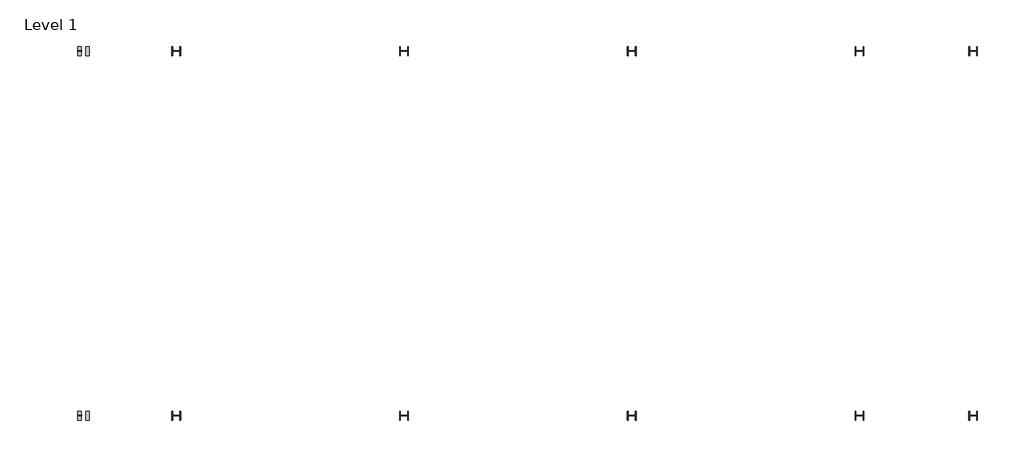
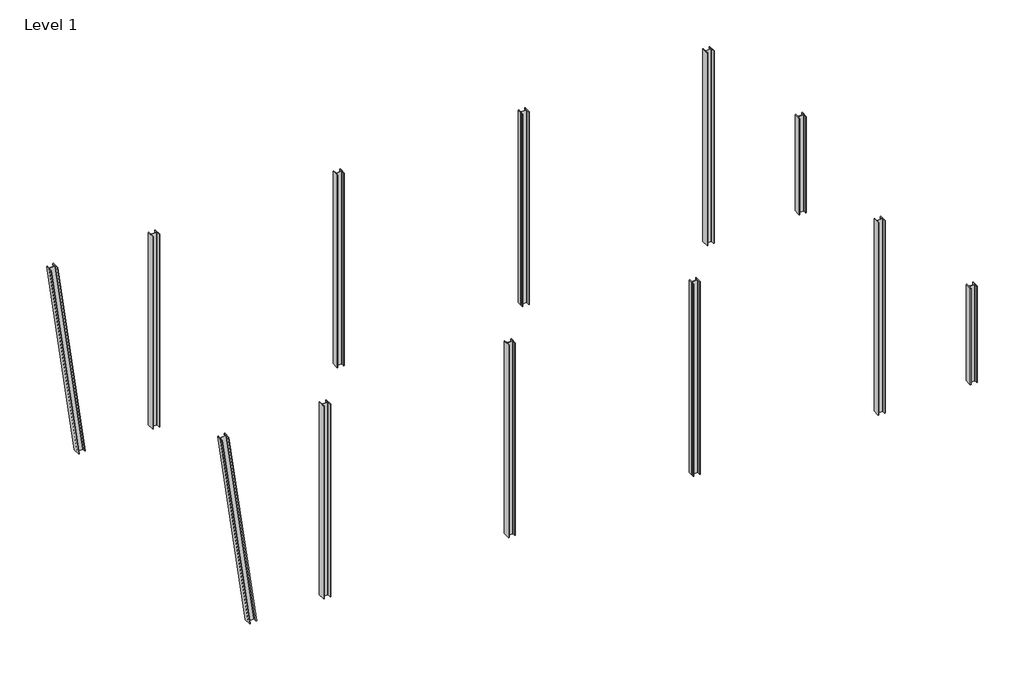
# One storey: 12 columns.
"""IFC4 building model written with IfcOpenShell, lengths in millimetres."""

from ifc_helpers import new_model, si_unit, point, frame, frame_2d, origin, origin_with_axes, place, context, project, spatial, polyline, circle_curve, trimmed, segment, composite_curve, outline, extrude, element, save

model = new_model("IFC4")

# Units and contexts
model_context = context("Model", 3, world=origin())
ifc_project = project(units=[si_unit("LENGTHUNIT", "METRE", prefix="MILLI")], contexts=[model_context])

# Site, building, storey
site = spatial("IfcSite", under=ifc_project)
building = spatial("IfcBuilding", under=site)
storey = spatial("IfcBuildingStorey", under=building, Name="Level 1", Elevation=0.0)

# Columns
placement = place(None, origin())
element("IfcColumn", 1, ObjectType="W Shapes-Column : W14X145", at=placement, inside=storey, context=model_context, shape_type="SweptSolid", body=[
    extrude(outline(composite_curve([segment(polyline([(393.7, 0.0), (393.7, -27.686), (220.726, -27.686)]), True, "CONTINUOUS"), segment(trimmed(circle_curve(frame_2d((220.726, -42.926)), 15.24), [point((220.726, -27.686))], [point((205.486, -42.926))], True, "CARTESIAN"), True, "CONTINUOUS"), segment(polyline([(205.486, -42.926), (205.486, -332.994)]), True, "CONTINUOUS"), segment(trimmed(circle_curve(frame_2d((220.726, -332.994)), 15.24), [point((205.486, -332.994))], [point((220.7259999, -348.2340001))], True, "CARTESIAN"), True, "CONTINUOUS"), segment(polyline([(220.7259999, -348.2340001), (393.6999999, -348.234), (393.6999999, -375.92), (-1e-07, -375.92), (-1e-07, -348.234), (172.9739999, -348.234)]), True, "CONTINUOUS"), segment(trimmed(circle_curve(frame_2d((172.974, -332.994)), 15.24), [point((172.9739999, -348.234))], [point((188.214, -332.9940001))], True, "CARTESIAN"), True, "CONTINUOUS"), segment(polyline([(188.214, -332.9940001), (188.214, -42.926)]), True, "CONTINUOUS"), segment(trimmed(circle_curve(frame_2d((172.974, -42.926)), 15.24), [point((188.214, -42.926))], [point((172.974, -27.686))], True, "CARTESIAN"), True, "CONTINUOUS"), segment(polyline([(172.974, -27.686), (0.0, -27.686), (0.0, 0.0), (393.7, 0.0)]), True, "CONTINUOUS")], self_intersect=False)), frame((2448.7649945, 1168.1486192, -25.3956826), z_axis=(-0.13511320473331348, 0.0, 0.990830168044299), x_axis=(-7.279044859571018e-06, 0.9999999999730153, -9.925970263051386e-07)), (0.0, 0.0, 1.0), 11101.8016556),
])
element("IfcColumn", 2, ObjectType="W Shapes-Column : W14X145", at=placement, inside=storey, context=model_context, shape_type="SweptSolid", body=[
    extrude(outline(composite_curve([segment(polyline([(6447.0392769, 1561.8493096), (6474.7252769, 1561.8494113), (6474.7259123, 1388.8754113)]), True, "CONTINUOUS"), segment(trimmed(circle_curve(frame_2d((6489.9659123, 1388.8754673)), 15.24), [point((6474.7259123, 1388.8754113))], [point((6489.9659683, 1373.6354673))], True, "CARTESIAN"), True, "CONTINUOUS"), segment(polyline([(6489.9659683, 1373.6354673), (6780.0339683, 1373.6365327)]), True, "CONTINUOUS"), segment(trimmed(circle_curve(frame_2d((6780.0339123, 1388.8765327)), 15.24), [point((6780.0339683, 1373.6365327))], [point((6795.2739123, 1388.8765887))], True, "CARTESIAN"), True, "CONTINUOUS"), segment(polyline([(6795.2739123, 1388.8765887), (6795.2732769, 1561.8505887), (6822.9592769, 1561.8506904), (6822.9607231, 1168.1506904), (6795.2747231, 1168.1505887), (6795.2740877, 1341.1245887)]), True, "CONTINUOUS"), segment(trimmed(circle_curve(frame_2d((6780.0340877, 1341.1245327)), 15.24), [point((6795.2740877, 1341.1245887))], [point((6780.0340317, 1356.3645327))], True, "CARTESIAN"), True, "CONTINUOUS"), segment(polyline([(6780.0340317, 1356.3645327), (6489.9660317, 1356.3634673)]), True, "CONTINUOUS"), segment(trimmed(circle_curve(frame_2d((6489.9660877, 1341.1234673)), 15.24), [point((6489.9660317, 1356.3634673))], [point((6474.7260877, 1341.1234113))], True, "CARTESIAN"), True, "CONTINUOUS"), segment(polyline([(6474.7260877, 1341.1234113), (6474.7267231, 1168.1494113), (6447.0407231, 1168.1493096), (6447.0392769, 1561.8493096)]), True, "CONTINUOUS")], self_intersect=False)), origin_with_axes(), (0.0, 0.0, 1.0), 11000.0),
])
element("IfcColumn", 3, ObjectType="W Shapes-Column : W14X145", at=placement, inside=storey, context=model_context, shape_type="SweptSolid", body=[
    extrude(outline(composite_curve([segment(polyline([(16429.2392769, -14438.1506904), (16456.9252769, -14438.1505887), (16456.9259123, -14611.1245887)]), True, "CONTINUOUS"), segment(trimmed(circle_curve(frame_2d((16472.1659123, -14611.1245327)), 15.24), [point((16456.9259123, -14611.1245887))], [point((16472.1659683, -14626.3645327))], True, "CARTESIAN"), True, "CONTINUOUS"), segment(polyline([(16472.1659683, -14626.3645327), (16762.2339683, -14626.3634673)]), True, "CONTINUOUS"), segment(trimmed(circle_curve(frame_2d((16762.2339123, -14611.1234673)), 15.24), [point((16762.2339683, -14626.3634673))], [point((16777.4739123, -14611.1234113))], True, "CARTESIAN"), True, "CONTINUOUS"), segment(polyline([(16777.4739123, -14611.1234113), (16777.4732769, -14438.1494113), (16805.1592769, -14438.1493096), (16805.1607231, -14831.8493096), (16777.4747231, -14831.8494113), (16777.4740877, -14658.8754113)]), True, "CONTINUOUS"), segment(trimmed(circle_curve(frame_2d((16762.2340877, -14658.8754673)), 15.24), [point((16777.4740877, -14658.8754113))], [point((16762.2340317, -14643.6354673))], True, "CARTESIAN"), True, "CONTINUOUS"), segment(polyline([(16762.2340317, -14643.6354673), (16472.1660317, -14643.6365327)]), True, "CONTINUOUS"), segment(trimmed(circle_curve(frame_2d((16472.1660877, -14658.8765327)), 15.24), [point((16472.1660317, -14643.6365327))], [point((16456.9260877, -14658.8765887))], True, "CARTESIAN"), True, "CONTINUOUS"), segment(polyline([(16456.9260877, -14658.8765887), (16456.9267231, -14831.8505887), (16429.2407231, -14831.8506904), (16429.2392769, -14438.1506904)]), True, "CONTINUOUS")], self_intersect=False)), origin_with_axes(), (0.0, 0.0, 1.0), 11000.0),
])
element("IfcColumn", 4, ObjectType="W Shapes-Column : W14X145", at=placement, inside=storey, context=model_context, shape_type="SweptSolid", body=[
    extrude(outline(composite_curve([segment(polyline([(16429.2392769, 1561.8493096), (16456.9252769, 1561.8494113), (16456.9259123, 1388.8754113)]), True, "CONTINUOUS"), segment(trimmed(circle_curve(frame_2d((16472.1659123, 1388.8754673)), 15.24), [point((16456.9259123, 1388.8754113))], [point((16472.1659683, 1373.6354673))], True, "CARTESIAN"), True, "CONTINUOUS"), segment(polyline([(16472.1659683, 1373.6354673), (16762.2339683, 1373.6365327)]), True, "CONTINUOUS"), segment(trimmed(circle_curve(frame_2d((16762.2339123, 1388.8765327)), 15.24), [point((16762.2339683, 1373.6365327))], [point((16777.4739123, 1388.8765887))], True, "CARTESIAN"), True, "CONTINUOUS"), segment(polyline([(16777.4739123, 1388.8765887), (16777.4732769, 1561.8505887), (16805.1592769, 1561.8506904), (16805.1607231, 1168.1506904), (16777.4747231, 1168.1505887), (16777.4740877, 1341.1245887)]), True, "CONTINUOUS"), segment(trimmed(circle_curve(frame_2d((16762.2340877, 1341.1245327)), 15.24), [point((16777.4740877, 1341.1245887))], [point((16762.2340317, 1356.3645327))], True, "CARTESIAN"), True, "CONTINUOUS"), segment(polyline([(16762.2340317, 1356.3645327), (16472.1660317, 1356.3634673)]), True, "CONTINUOUS"), segment(trimmed(circle_curve(frame_2d((16472.1660877, 1341.1234673)), 15.24), [point((16472.1660317, 1356.3634673))], [point((16456.9260877, 1341.1234113))], True, "CARTESIAN"), True, "CONTINUOUS"), segment(polyline([(16456.9260877, 1341.1234113), (16456.9267231, 1168.1494113), (16429.2407231, 1168.1493096), (16429.2392769, 1561.8493096)]), True, "CONTINUOUS")], self_intersect=False)), origin_with_axes(), (0.0, 0.0, 1.0), 11000.0),
])
element("IfcColumn", 5, ObjectType="W Shapes-Column : W14X145", at=placement, inside=storey, context=model_context, shape_type="SweptSolid", body=[
    extrude(outline(composite_curve([segment(polyline([(26411.4392769, -14438.1506904), (26439.1252769, -14438.1505887), (26439.1259123, -14611.1245887)]), True, "CONTINUOUS"), segment(trimmed(circle_curve(frame_2d((26454.3659123, -14611.1245327)), 15.24), [point((26439.1259123, -14611.1245887))], [point((26454.3659683, -14626.3645327))], True, "CARTESIAN"), True, "CONTINUOUS"), segment(polyline([(26454.3659683, -14626.3645327), (26744.4339683, -14626.3634673)]), True, "CONTINUOUS"), segment(trimmed(circle_curve(frame_2d((26744.4339123, -14611.1234673)), 15.24), [point((26744.4339683, -14626.3634673))], [point((26759.6739123, -14611.1234113))], True, "CARTESIAN"), True, "CONTINUOUS"), segment(polyline([(26759.6739123, -14611.1234113), (26759.6732769, -14438.1494113), (26787.3592769, -14438.1493096), (26787.3607231, -14831.8493096), (26759.6747231, -14831.8494113), (26759.6740877, -14658.8754113)]), True, "CONTINUOUS"), segment(trimmed(circle_curve(frame_2d((26744.4340877, -14658.8754673)), 15.24), [point((26759.6740877, -14658.8754113))], [point((26744.4340317, -14643.6354673))], True, "CARTESIAN"), True, "CONTINUOUS"), segment(polyline([(26744.4340317, -14643.6354673), (26454.3660317, -14643.6365327)]), True, "CONTINUOUS"), segment(trimmed(circle_curve(frame_2d((26454.3660877, -14658.8765327)), 15.24), [point((26454.3660317, -14643.6365327))], [point((26439.1260877, -14658.8765887))], True, "CARTESIAN"), True, "CONTINUOUS"), segment(polyline([(26439.1260877, -14658.8765887), (26439.1267231, -14831.8505887), (26411.4407231, -14831.8506904), (26411.4392769, -14438.1506904)]), True, "CONTINUOUS")], self_intersect=False)), origin_with_axes(), (0.0, 0.0, 1.0), 11000.0),
])
element("IfcColumn", 6, ObjectType="W Shapes-Column : W14X145", at=placement, inside=storey, context=model_context, shape_type="SweptSolid", body=[
    extrude(outline(composite_curve([segment(polyline([(26411.4392769, 1561.8493096), (26439.1252769, 1561.8494113), (26439.1259123, 1388.8754113)]), True, "CONTINUOUS"), segment(trimmed(circle_curve(frame_2d((26454.3659123, 1388.8754673)), 15.24), [point((26439.1259123, 1388.8754113))], [point((26454.3659683, 1373.6354673))], True, "CARTESIAN"), True, "CONTINUOUS"), segment(polyline([(26454.3659683, 1373.6354673), (26744.4339683, 1373.6365327)]), True, "CONTINUOUS"), segment(trimmed(circle_curve(frame_2d((26744.4339123, 1388.8765327)), 15.24), [point((26744.4339683, 1373.6365327))], [point((26759.6739123, 1388.8765887))], True, "CARTESIAN"), True, "CONTINUOUS"), segment(polyline([(26759.6739123, 1388.8765887), (26759.6732769, 1561.8505887), (26787.3592769, 1561.8506904), (26787.3607231, 1168.1506904), (26759.6747231, 1168.1505887), (26759.6740877, 1341.1245887)]), True, "CONTINUOUS"), segment(trimmed(circle_curve(frame_2d((26744.4340877, 1341.1245327)), 15.24), [point((26759.6740877, 1341.1245887))], [point((26744.4340317, 1356.3645327))], True, "CARTESIAN"), True, "CONTINUOUS"), segment(polyline([(26744.4340317, 1356.3645327), (26454.3660317, 1356.3634673)]), True, "CONTINUOUS"), segment(trimmed(circle_curve(frame_2d((26454.3660877, 1341.1234673)), 15.24), [point((26454.3660317, 1356.3634673))], [point((26439.1260877, 1341.1234113))], True, "CARTESIAN"), True, "CONTINUOUS"), segment(polyline([(26439.1260877, 1341.1234113), (26439.1267231, 1168.1494113), (26411.4407231, 1168.1493096), (26411.4392769, 1561.8493096)]), True, "CONTINUOUS")], self_intersect=False)), origin_with_axes(), (0.0, 0.0, 1.0), 11000.0),
])
element("IfcColumn", 7, ObjectType="W Shapes-Column : W14X145", at=placement, inside=storey, context=model_context, shape_type="SweptSolid", body=[
    extrude(outline(composite_curve([segment(polyline([(36393.6392769, -14438.1506904), (36421.3252769, -14438.1505887), (36421.3259123, -14611.1245887)]), True, "CONTINUOUS"), segment(trimmed(circle_curve(frame_2d((36436.5659123, -14611.1245327)), 15.24), [point((36421.3259123, -14611.1245887))], [point((36436.5659683, -14626.3645327))], True, "CARTESIAN"), True, "CONTINUOUS"), segment(polyline([(36436.5659683, -14626.3645327), (36726.6339683, -14626.3634673)]), True, "CONTINUOUS"), segment(trimmed(circle_curve(frame_2d((36726.6339123, -14611.1234673)), 15.24), [point((36726.6339683, -14626.3634673))], [point((36741.8739123, -14611.1234113))], True, "CARTESIAN"), True, "CONTINUOUS"), segment(polyline([(36741.8739123, -14611.1234113), (36741.8732769, -14438.1494113), (36769.5592769, -14438.1493096), (36769.5607231, -14831.8493096), (36741.8747231, -14831.8494113), (36741.8740877, -14658.8754113)]), True, "CONTINUOUS"), segment(trimmed(circle_curve(frame_2d((36726.6340877, -14658.8754673)), 15.24), [point((36741.8740877, -14658.8754113))], [point((36726.6340317, -14643.6354673))], True, "CARTESIAN"), True, "CONTINUOUS"), segment(polyline([(36726.6340317, -14643.6354673), (36436.5660317, -14643.6365327)]), True, "CONTINUOUS"), segment(trimmed(circle_curve(frame_2d((36436.5660877, -14658.8765327)), 15.24), [point((36436.5660317, -14643.6365327))], [point((36421.3260877, -14658.8765887))], True, "CARTESIAN"), True, "CONTINUOUS"), segment(polyline([(36421.3260877, -14658.8765887), (36421.3267231, -14831.8505887), (36393.6407231, -14831.8506904), (36393.6392769, -14438.1506904)]), True, "CONTINUOUS")], self_intersect=False)), origin_with_axes(), (0.0, 0.0, 1.0), 11000.0),
])
element("IfcColumn", 8, ObjectType="W Shapes-Column : W14X145", at=placement, inside=storey, context=model_context, shape_type="SweptSolid", body=[
    extrude(outline(composite_curve([segment(polyline([(36393.6392769, 1561.8493096), (36421.3252769, 1561.8494113), (36421.3259123, 1388.8754113)]), True, "CONTINUOUS"), segment(trimmed(circle_curve(frame_2d((36436.5659123, 1388.8754673)), 15.24), [point((36421.3259123, 1388.8754113))], [point((36436.5659683, 1373.6354673))], True, "CARTESIAN"), True, "CONTINUOUS"), segment(polyline([(36436.5659683, 1373.6354673), (36726.6339683, 1373.6365327)]), True, "CONTINUOUS"), segment(trimmed(circle_curve(frame_2d((36726.6339123, 1388.8765327)), 15.24), [point((36726.6339683, 1373.6365327))], [point((36741.8739123, 1388.8765887))], True, "CARTESIAN"), True, "CONTINUOUS"), segment(polyline([(36741.8739123, 1388.8765887), (36741.8732769, 1561.8505887), (36769.5592769, 1561.8506904), (36769.5607231, 1168.1506904), (36741.8747231, 1168.1505887), (36741.8740877, 1341.1245887)]), True, "CONTINUOUS"), segment(trimmed(circle_curve(frame_2d((36726.6340877, 1341.1245327)), 15.24), [point((36741.8740877, 1341.1245887))], [point((36726.6340317, 1356.3645327))], True, "CARTESIAN"), True, "CONTINUOUS"), segment(polyline([(36726.6340317, 1356.3645327), (36436.5660317, 1356.3634673)]), True, "CONTINUOUS"), segment(trimmed(circle_curve(frame_2d((36436.5660877, 1341.1234673)), 15.24), [point((36436.5660317, 1356.3634673))], [point((36421.3260877, 1341.1234113))], True, "CARTESIAN"), True, "CONTINUOUS"), segment(polyline([(36421.3260877, 1341.1234113), (36421.3267231, 1168.1494113), (36393.6407231, 1168.1493096), (36393.6392769, 1561.8493096)]), True, "CONTINUOUS")], self_intersect=False)), origin_with_axes(), (0.0, 0.0, 1.0), 11000.0),
])
element("IfcColumn", 9, ObjectType="W Shapes-Column : W14X145", at=placement, inside=storey, context=model_context, shape_type="SweptSolid", body=[
    extrude(outline(composite_curve([segment(polyline([(41375.8392769, -14438.1506904), (41403.5252769, -14438.1505887), (41403.5259123, -14611.1245887)]), True, "CONTINUOUS"), segment(trimmed(circle_curve(frame_2d((41418.7659123, -14611.1245327)), 15.24), [point((41403.5259123, -14611.1245887))], [point((41418.7659683, -14626.3645327))], True, "CARTESIAN"), True, "CONTINUOUS"), segment(polyline([(41418.7659683, -14626.3645327), (41708.8339683, -14626.3634673)]), True, "CONTINUOUS"), segment(trimmed(circle_curve(frame_2d((41708.8339123, -14611.1234673)), 15.24), [point((41708.8339683, -14626.3634673))], [point((41724.0739123, -14611.1234113))], True, "CARTESIAN"), True, "CONTINUOUS"), segment(polyline([(41724.0739123, -14611.1234113), (41724.0732769, -14438.1494113), (41751.7592769, -14438.1493096), (41751.7607231, -14831.8493096), (41724.0747231, -14831.8494113), (41724.0740877, -14658.8754113)]), True, "CONTINUOUS"), segment(trimmed(circle_curve(frame_2d((41708.8340877, -14658.8754673)), 15.24), [point((41724.0740877, -14658.8754113))], [point((41708.8340317, -14643.6354673))], True, "CARTESIAN"), True, "CONTINUOUS"), segment(polyline([(41708.8340317, -14643.6354673), (41418.7660317, -14643.6365327)]), True, "CONTINUOUS"), segment(trimmed(circle_curve(frame_2d((41418.7660877, -14658.8765327)), 15.24), [point((41418.7660317, -14643.6365327))], [point((41403.5260877, -14658.8765887))], True, "CARTESIAN"), True, "CONTINUOUS"), segment(polyline([(41403.5260877, -14658.8765887), (41403.5267231, -14831.8505887), (41375.8407231, -14831.8506904), (41375.8392769, -14438.1506904)]), True, "CONTINUOUS")], self_intersect=False)), origin_with_axes(), (0.0, 0.0, 1.0), 5500.0),
])
element("IfcColumn", 10, ObjectType="W Shapes-Column : W14X145", at=placement, inside=storey, context=model_context, shape_type="SweptSolid", body=[
    extrude(outline(composite_curve([segment(polyline([(41375.8392769, 1561.8493096), (41403.5252769, 1561.8494113), (41403.5259123, 1388.8754113)]), True, "CONTINUOUS"), segment(trimmed(circle_curve(frame_2d((41418.7659123, 1388.8754673)), 15.24), [point((41403.5259123, 1388.8754113))], [point((41418.7659683, 1373.6354673))], True, "CARTESIAN"), True, "CONTINUOUS"), segment(polyline([(41418.7659683, 1373.6354673), (41708.8339683, 1373.6365327)]), True, "CONTINUOUS"), segment(trimmed(circle_curve(frame_2d((41708.8339123, 1388.8765327)), 15.24), [point((41708.8339683, 1373.6365327))], [point((41724.0739123, 1388.8765887))], True, "CARTESIAN"), True, "CONTINUOUS"), segment(polyline([(41724.0739123, 1388.8765887), (41724.0732769, 1561.8505887), (41751.7592769, 1561.8506904), (41751.7607231, 1168.1506904), (41724.0747231, 1168.1505887), (41724.0740877, 1341.1245887)]), True, "CONTINUOUS"), segment(trimmed(circle_curve(frame_2d((41708.8340877, 1341.1245327)), 15.24), [point((41724.0740877, 1341.1245887))], [point((41708.8340317, 1356.3645327))], True, "CARTESIAN"), True, "CONTINUOUS"), segment(polyline([(41708.8340317, 1356.3645327), (41418.7660317, 1356.3634673)]), True, "CONTINUOUS"), segment(trimmed(circle_curve(frame_2d((41418.7660877, 1341.1234673)), 15.24), [point((41418.7660317, 1356.3634673))], [point((41403.5260877, 1341.1234113))], True, "CARTESIAN"), True, "CONTINUOUS"), segment(polyline([(41403.5260877, 1341.1234113), (41403.5267231, 1168.1494113), (41375.8407231, 1168.1493096), (41375.8392769, 1561.8493096)]), True, "CONTINUOUS")], self_intersect=False)), origin_with_axes(), (0.0, 0.0, 1.0), 5500.0),
])
element("IfcColumn", 11, ObjectType="W Shapes-Column : W14X145", at=placement, inside=storey, context=model_context, shape_type="SweptSolid", body=[
    extrude(outline(composite_curve([segment(polyline([(393.7, 0.0), (393.7, -27.686), (220.726, -27.686)]), True, "CONTINUOUS"), segment(trimmed(circle_curve(frame_2d((220.726, -42.926)), 15.24), [point((220.726, -27.686))], [point((205.486, -42.926))], True, "CARTESIAN"), True, "CONTINUOUS"), segment(polyline([(205.486, -42.926), (205.486, -332.994)]), True, "CONTINUOUS"), segment(trimmed(circle_curve(frame_2d((220.726, -332.994)), 15.24), [point((205.486, -332.994))], [point((220.7259999, -348.2340001))], True, "CARTESIAN"), True, "CONTINUOUS"), segment(polyline([(220.7259999, -348.2340001), (393.6999999, -348.234), (393.6999999, -375.92), (-1e-07, -375.92), (-1e-07, -348.234), (172.9739999, -348.234)]), True, "CONTINUOUS"), segment(trimmed(circle_curve(frame_2d((172.974, -332.994)), 15.24), [point((172.9739999, -348.234))], [point((188.214, -332.9940001))], True, "CARTESIAN"), True, "CONTINUOUS"), segment(polyline([(188.214, -332.9940001), (188.214, -42.926)]), True, "CONTINUOUS"), segment(trimmed(circle_curve(frame_2d((172.974, -42.926)), 15.24), [point((188.214, -42.926))], [point((172.974, -27.686))], True, "CARTESIAN"), True, "CONTINUOUS"), segment(polyline([(172.974, -27.686), (0.0, -27.686), (0.0, 0.0), (393.7, 0.0)]), True, "CONTINUOUS")], self_intersect=False)), frame((2448.7649945, -14831.8513808, -25.3956826), z_axis=(-0.13511320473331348, 0.0, 0.990830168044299), x_axis=(-7.279044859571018e-06, 0.9999999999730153, -9.925970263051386e-07)), (0.0, 0.0, 1.0), 11101.8016556),
])
element("IfcColumn", 12, ObjectType="W Shapes-Column : W14X145", at=placement, inside=storey, context=model_context, shape_type="SweptSolid", body=[
    extrude(outline(composite_curve([segment(polyline([(6447.0392769, -14438.1506904), (6474.7252769, -14438.1505887), (6474.7259123, -14611.1245887)]), True, "CONTINUOUS"), segment(trimmed(circle_curve(frame_2d((6489.9659123, -14611.1245327)), 15.24), [point((6474.7259123, -14611.1245887))], [point((6489.9659683, -14626.3645327))], True, "CARTESIAN"), True, "CONTINUOUS"), segment(polyline([(6489.9659683, -14626.3645327), (6780.0339683, -14626.3634673)]), True, "CONTINUOUS"), segment(trimmed(circle_curve(frame_2d((6780.0339123, -14611.1234673)), 15.24), [point((6780.0339683, -14626.3634673))], [point((6795.2739123, -14611.1234113))], True, "CARTESIAN"), True, "CONTINUOUS"), segment(polyline([(6795.2739123, -14611.1234113), (6795.2732769, -14438.1494113), (6822.9592769, -14438.1493096), (6822.9607231, -14831.8493096), (6795.2747231, -14831.8494113), (6795.2740877, -14658.8754113)]), True, "CONTINUOUS"), segment(trimmed(circle_curve(frame_2d((6780.0340877, -14658.8754673)), 15.24), [point((6795.2740877, -14658.8754113))], [point((6780.0340317, -14643.6354673))], True, "CARTESIAN"), True, "CONTINUOUS"), segment(polyline([(6780.0340317, -14643.6354673), (6489.9660317, -14643.6365327)]), True, "CONTINUOUS"), segment(trimmed(circle_curve(frame_2d((6489.9660877, -14658.8765327)), 15.24), [point((6489.9660317, -14643.6365327))], [point((6474.7260877, -14658.8765887))], True, "CARTESIAN"), True, "CONTINUOUS"), segment(polyline([(6474.7260877, -14658.8765887), (6474.7267231, -14831.8505887), (6447.0407231, -14831.8506904), (6447.0392769, -14438.1506904)]), True, "CONTINUOUS")], self_intersect=False)), origin_with_axes(), (0.0, 0.0, 1.0), 11000.0),
])

save(model, "model.ifc")
